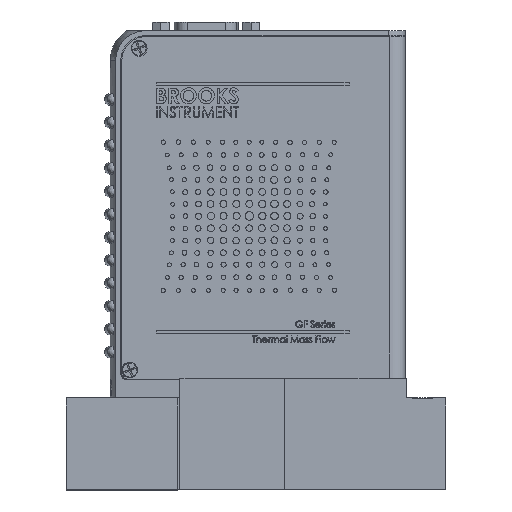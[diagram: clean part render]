
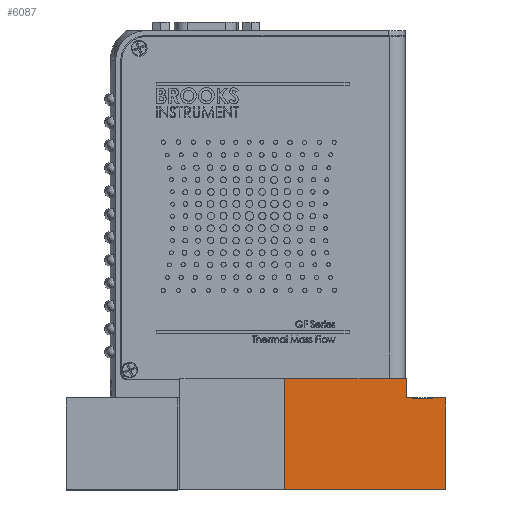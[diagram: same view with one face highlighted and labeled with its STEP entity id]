
A CAD part, top view. The second image highlights one B-rep face of the part: STEP entity #6087.
In plain terms, the highlighted planar face has unit normal (0, 0, 1).
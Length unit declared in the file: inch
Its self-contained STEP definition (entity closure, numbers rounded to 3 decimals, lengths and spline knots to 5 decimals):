
#247 = LINE ( 'NONE', #68808, #23503 ) ;
#652 = LINE ( 'NONE', #9479, #62375 ) ;
#1214 = EDGE_CURVE ( 'NONE', #89385, #31903, #67236, .T. ) ;
#1562 = DIRECTION ( 'NONE',  ( 1., 0., 0. ) ) ;
#2224 = CARTESIAN_POINT ( 'NONE',  ( 2.83033, 0.46207, 0.89749 ) ) ;
#6087 = ADVANCED_FACE ( 'NONE', ( #30988 ), #49775, .F. ) ;
#6278 = CARTESIAN_POINT ( 'NONE',  ( 3.19399, 0.47207, 0.89749 ) ) ;
#8376 = VERTEX_POINT ( 'NONE', #44570 ) ;
#9479 = CARTESIAN_POINT ( 'NONE',  ( 2.76399, 0.47207, 0.89749 ) ) ;
#12625 = ORIENTED_EDGE ( 'NONE', *, *, #61052, .F. ) ;
#16718 = DIRECTION ( 'NONE',  ( 0., 1., 0. ) ) ;
#18956 = ORIENTED_EDGE ( 'NONE', *, *, #37754, .F. ) ;
#19010 = ORIENTED_EDGE ( 'NONE', *, *, #46665, .T. ) ;
#19423 = CARTESIAN_POINT ( 'NONE',  ( 3.04965, 0.47207, 0.89749 ) ) ;
#21952 = CARTESIAN_POINT ( 'NONE',  ( 3.04965, 0.46207, 0.89749 ) ) ;
#22407 = DIRECTION ( 'NONE',  ( 1., 0., 0. ) ) ;
#23503 = VECTOR ( 'NONE', #24582, 39.37008 ) ;
#24166 = LINE ( 'NONE', #82847, #25832 ) ;
#24582 = DIRECTION ( 'NONE',  ( 0., 1., 0. ) ) ;
#25832 = VECTOR ( 'NONE', #56821, 39.37008 ) ;
#27053 = VERTEX_POINT ( 'NONE', #2224 ) ;
#28276 = EDGE_CURVE ( 'NONE', #90659, #8376, #652, .T. ) ;
#29506 = DIRECTION ( 'NONE',  ( 0., -1., 0. ) ) ;
#30148 = CARTESIAN_POINT ( 'NONE',  ( 1.43999, -0.52793, 0.89749 ) ) ;
#30988 = FACE_OUTER_BOUND ( 'NONE', #44759, .T. ) ;
#31903 = VERTEX_POINT ( 'NONE', #100529 ) ;
#33136 = VERTEX_POINT ( 'NONE', #61746 ) ;
#34787 = CARTESIAN_POINT ( 'NONE',  ( 1.43999, 0.46207, 0.89749 ) ) ;
#37754 = EDGE_CURVE ( 'NONE', #33136, #8376, #40296, .T. ) ;
#38384 = CARTESIAN_POINT ( 'NONE',  ( 1.43999, 0.67907, 0.89749 ) ) ;
#40296 = LINE ( 'NONE', #81821, #68069 ) ;
#42939 = VECTOR ( 'NONE', #22407, 39.37008 ) ;
#43090 = LINE ( 'NONE', #34787, #83885 ) ;
#44570 = CARTESIAN_POINT ( 'NONE',  ( 2.76399, 0.67907, 0.89749 ) ) ;
#44759 = EDGE_LOOP ( 'NONE', ( #73719, #103870, #12625, #87238, #18956, #19010, #84729, #109279, #48919, #105614 ) ) ;
#46665 = EDGE_CURVE ( 'NONE', #33136, #83339, #96994, .T. ) ;
#47727 = VERTEX_POINT ( 'NONE', #91084 ) ;
#48919 = ORIENTED_EDGE ( 'NONE', *, *, #107594, .F. ) ;
#49495 = LINE ( 'NONE', #30148, #42939 ) ;
#49544 = EDGE_CURVE ( 'NONE', #70724, #53898, #24166, .T. ) ;
#49775 = PLANE ( 'NONE',  #71367 ) ;
#52123 = CARTESIAN_POINT ( 'NONE',  ( 3.19399, 0.47207, 0.89749 ) ) ;
#52797 = CARTESIAN_POINT ( 'NONE',  ( 3.19399, 0.47207, 0.89749 ) ) ;
#53632 = VECTOR ( 'NONE', #29506, 39.37008 ) ;
#53898 = VERTEX_POINT ( 'NONE', #21952 ) ;
#56821 = DIRECTION ( 'NONE',  ( 0., -1., 0. ) ) ;
#56884 = DIRECTION ( 'NONE',  ( 1., 0., 0. ) ) ;
#59633 = VECTOR ( 'NONE', #65473, 39.37008 ) ;
#61052 = EDGE_CURVE ( 'NONE', #90659, #47727, #82092, .T. ) ;
#61746 = CARTESIAN_POINT ( 'NONE',  ( 1.43999, 0.67907, 0.89749 ) ) ;
#62375 = VECTOR ( 'NONE', #16718, 39.37008 ) ;
#65473 = DIRECTION ( 'NONE',  ( 1., 0., 0. ) ) ;
#67236 = LINE ( 'NONE', #67780, #76255 ) ;
#67780 = CARTESIAN_POINT ( 'NONE',  ( 3.19399, 0.67907, 0.89749 ) ) ;
#68069 = VECTOR ( 'NONE', #56884, 39.37008 ) ;
#68736 = LINE ( 'NONE', #52123, #89117 ) ;
#68808 = CARTESIAN_POINT ( 'NONE',  ( 2.83033, 0.46207, 0.89749 ) ) ;
#70724 = VERTEX_POINT ( 'NONE', #19423 ) ;
#71367 = AXIS2_PLACEMENT_3D ( 'NONE', #99556, #89636, #91288 ) ;
#72575 = EDGE_CURVE ( 'NONE', #83339, #31903, #49495, .T. ) ;
#72665 = EDGE_CURVE ( 'NONE', #27053, #47727, #247, .T. ) ;
#73719 = ORIENTED_EDGE ( 'NONE', *, *, #94931, .F. ) ;
#74281 = CARTESIAN_POINT ( 'NONE',  ( 1.43999, -0.52793, 0.89749 ) ) ;
#76255 = VECTOR ( 'NONE', #100967, 39.37008 ) ;
#78720 = CARTESIAN_POINT ( 'NONE',  ( 2.76399, 0.47207, 0.89749 ) ) ;
#81821 = CARTESIAN_POINT ( 'NONE',  ( 1.43999, 0.67907, 0.89749 ) ) ;
#82092 = LINE ( 'NONE', #6278, #59633 ) ;
#82847 = CARTESIAN_POINT ( 'NONE',  ( 3.04965, 0.46207, 0.89749 ) ) ;
#83339 = VERTEX_POINT ( 'NONE', #74281 ) ;
#83885 = VECTOR ( 'NONE', #1562, 39.37008 ) ;
#84729 = ORIENTED_EDGE ( 'NONE', *, *, #72575, .T. ) ;
#87238 = ORIENTED_EDGE ( 'NONE', *, *, #28276, .T. ) ;
#89117 = VECTOR ( 'NONE', #109146, 39.37008 ) ;
#89385 = VERTEX_POINT ( 'NONE', #52797 ) ;
#89636 = DIRECTION ( 'NONE',  ( 0., 0., -1. ) ) ;
#90659 = VERTEX_POINT ( 'NONE', #78720 ) ;
#91084 = CARTESIAN_POINT ( 'NONE',  ( 2.83033, 0.47207, 0.89749 ) ) ;
#91288 = DIRECTION ( 'NONE',  ( -1., 0., 0. ) ) ;
#94931 = EDGE_CURVE ( 'NONE', #27053, #53898, #43090, .T. ) ;
#96994 = LINE ( 'NONE', #38384, #53632 ) ;
#99556 = CARTESIAN_POINT ( 'NONE',  ( 1.43999, 0.67907, 0.89749 ) ) ;
#100529 = CARTESIAN_POINT ( 'NONE',  ( 3.19399, -0.52793, 0.89749 ) ) ;
#100967 = DIRECTION ( 'NONE',  ( 0., -1., 0. ) ) ;
#103870 = ORIENTED_EDGE ( 'NONE', *, *, #72665, .T. ) ;
#105614 = ORIENTED_EDGE ( 'NONE', *, *, #49544, .T. ) ;
#107594 = EDGE_CURVE ( 'NONE', #70724, #89385, #68736, .T. ) ;
#109146 = DIRECTION ( 'NONE',  ( 1., 0., 0. ) ) ;
#109279 = ORIENTED_EDGE ( 'NONE', *, *, #1214, .F. ) ;
